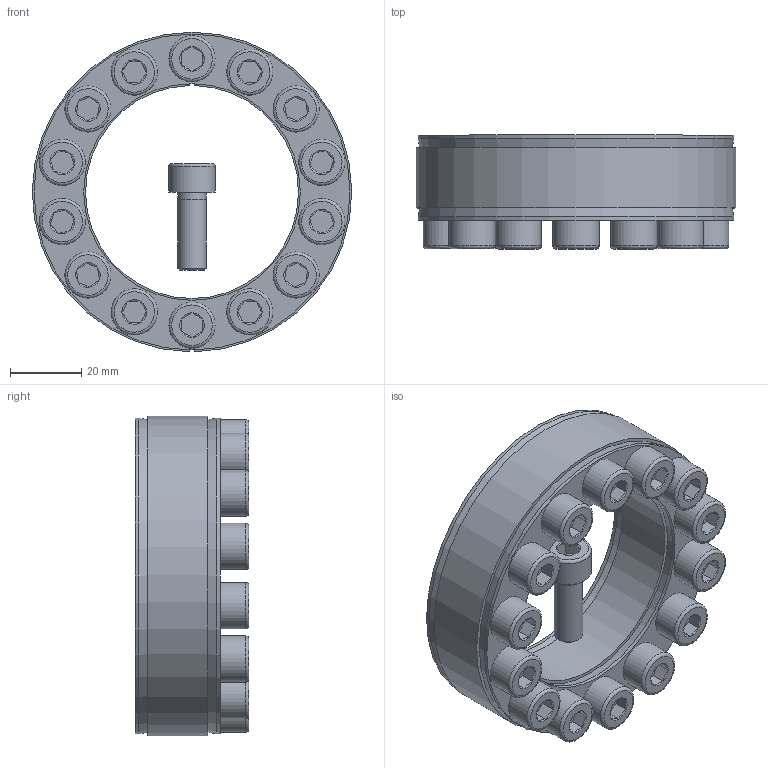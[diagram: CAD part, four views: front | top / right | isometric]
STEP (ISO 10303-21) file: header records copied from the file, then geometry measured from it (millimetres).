
FILE_DESCRIPTION( ( 'Unknown' ), '1' );
FILE_NAME( 'C:/Dokumente und Einstellungen/Sven/Desktop/homepage/cad - homepage/KBS40/KBS 40 - 60 x 90.stp', 'Unknown', ( 'Unknown' ), ( 'Unknown' ), 'XStep 1.0', 'Unknown', ' ' );
FILE_SCHEMA( ( 'automotive_design' ) );
Length unit declared in the file: millimetre
Products named in the file (16): Assem1; KBS 40 60x90; ISO 4762 M8x22; ISO 4762 M8x22-oa0; ISO 4762 M8x22-oa1; ISO 4762 M8x22-oa2; ISO 4762 M8x22-oa3; ISO 4762 M8x22-oa4; ISO 4762 M8x22-oa5; ISO 4762 M8x22-oa6; ISO 4762 M8x22-oa7; ISO 4762 M8x22-oa8; ISO 4762 M8x22-oa9; ISO 4762 M8x22-oa10; ISO 4762 M8x22-oa11; ISO 4762 M8x22-oa12
Bounding box: 90 x 32 x 89.99 mm (x, y, z)
Volume: 188201.8 mm3; surface area: 86354.3 mm2
Topology: 30 solids, 30 shells, 788 faces, 1456 edges, 840 vertices
Faces by surface type: plane 376, cone 204, cylinder 152, torus 56
Full cylindrical faces by diameter (mm): 7 x28, 8 x84, 13 x28, 61 x4, 89 x4
Entity records: 9689 total; most frequent: CARTESIAN_POINT 2022, DIRECTION 1600, ORIENTED_EDGE 1156, AXIS2_PLACEMENT_3D 696, EDGE_LOOP 600, EDGE_CURVE 578, FACE_OUTER_BOUND 496, ADVANCED_FACE 394
